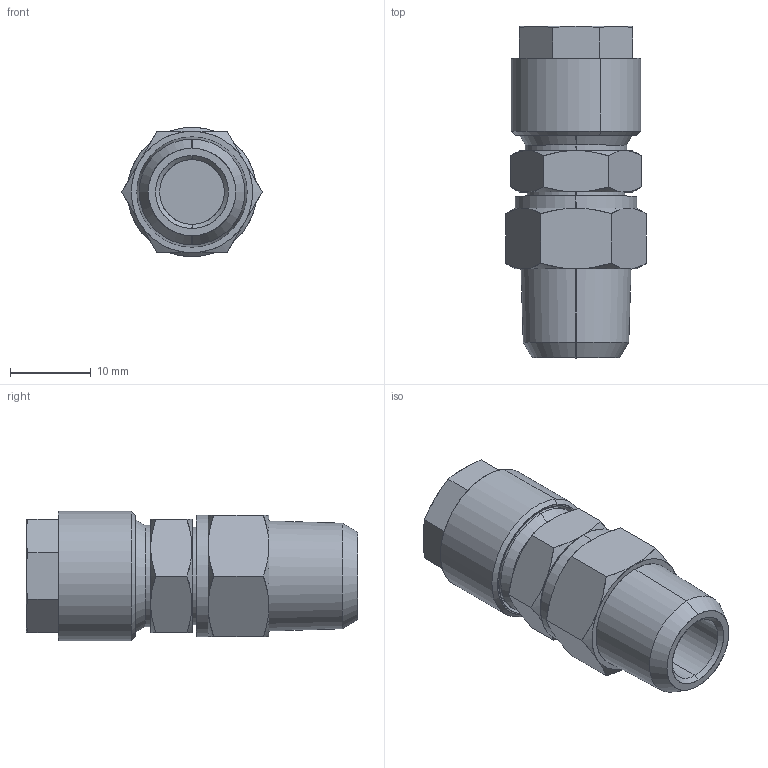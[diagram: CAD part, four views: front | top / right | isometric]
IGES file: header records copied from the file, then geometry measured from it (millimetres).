
Start section: SolidWorks IGES file using analytic representation for surfaces
Global section: file name: K:\Disegni Esecutivi\Serie 1000\Complessivi Serie 1000\1010\1010_IGES\0101000005A.IGS; native system: SolidWorks 2008; preprocessor: SolidWorks 2008; author: cad05; date: 090121.170538; units: millimetre
Bounding box: 17.32 x 41 x 16 mm (x, y, z)
Surface area: 2680.4 mm2 (no closed solid volume)
Topology: 0 solids, 0 shells, 94 faces, 1291 edges, 1291 vertices
Faces by surface type: revolution 59, bspline 35
